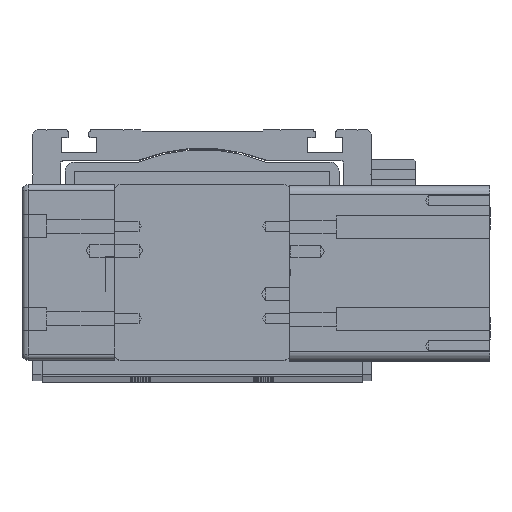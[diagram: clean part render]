
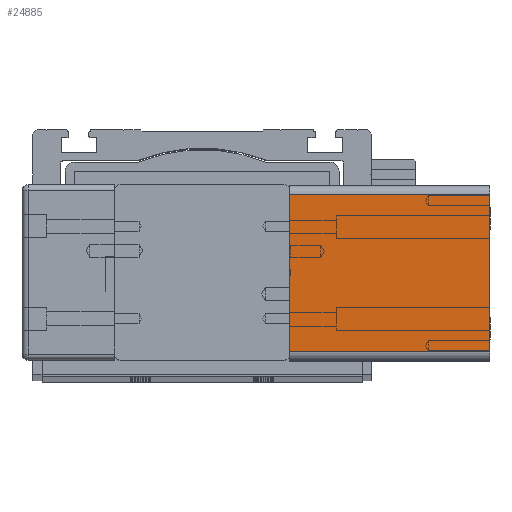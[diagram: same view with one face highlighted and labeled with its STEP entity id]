
A CAD part, top view. The second image highlights one B-rep face of the part: STEP entity #24885.
In plain terms, the highlighted planar face has unit normal (0, 0, 1) as drawn and (-1, 0, 0) by its records, which use the part's own axes.
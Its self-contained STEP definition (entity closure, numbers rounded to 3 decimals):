
#24619=CARTESIAN_POINT('',(0.0,54.0,0.0));
#24620=VERTEX_POINT('',#24619);
#24628=CARTESIAN_POINT('',(0.0,3.,0.0));
#24629=VERTEX_POINT('',#24628);
#24630=CARTESIAN_POINT('',(0.0,54.0,0.0));
#24631=DIRECTION('',(0.0,-1.0,0.0));
#24632=VECTOR('',#24631,51.0);
#24633=LINE('',#24630,#24632);
#24634=EDGE_CURVE('',#24620,#24629,#24633,.T.);
#24768=CARTESIAN_POINT('',(0.0,3.,-65.0));
#24769=VERTEX_POINT('',#24768);
#24786=CARTESIAN_POINT('',(0.0,3.,0.0));
#24787=DIRECTION('',(0.0,0.0,-1.0));
#24788=VECTOR('',#24787,65.0);
#24789=LINE('',#24786,#24788);
#24790=EDGE_CURVE('',#24629,#24769,#24789,.T.);
#24844=CARTESIAN_POINT('',(0.0,54.0,-65.0));
#24845=VERTEX_POINT('',#24844);
#24853=CARTESIAN_POINT('',(0.0,54.0,-65.0));
#24854=DIRECTION('',(0.0,0.0,1.0));
#24855=VECTOR('',#24854,65.0);
#24856=LINE('',#24853,#24855);
#24857=EDGE_CURVE('',#24845,#24620,#24856,.T.);
#24869=CARTESIAN_POINT('',(0.0,57.0,0.0));
#24870=DIRECTION('',(-1.0,0.0,0.0));
#24871=DIRECTION('',(0.0,0.0,1.0));
#24872=AXIS2_PLACEMENT_3D('',#24869,#24870,#24871);
#24873=PLANE('',#24872);
#24874=ORIENTED_EDGE('',*,*,#24790,.F.);
#24875=ORIENTED_EDGE('',*,*,#24634,.F.);
#24876=ORIENTED_EDGE('',*,*,#24857,.F.);
#24877=CARTESIAN_POINT('',(0.0,54.0,-65.0));
#24878=DIRECTION('',(0.0,-1.0,0.0));
#24879=VECTOR('',#24878,51.0);
#24880=LINE('',#24877,#24879);
#24881=EDGE_CURVE('',#24845,#24769,#24880,.T.);
#24882=ORIENTED_EDGE('',*,*,#24881,.T.);
#24883=EDGE_LOOP('',(#24874,#24875,#24876,#24882));
#24884=FACE_OUTER_BOUND('',#24883,.T.);
#24885=ADVANCED_FACE('',(#24884),#24873,.T.);
